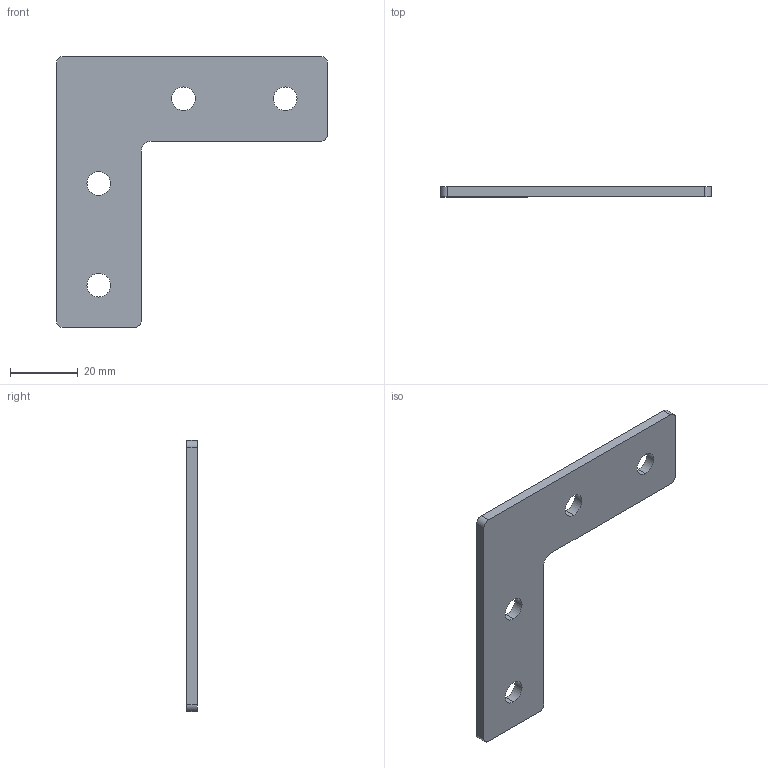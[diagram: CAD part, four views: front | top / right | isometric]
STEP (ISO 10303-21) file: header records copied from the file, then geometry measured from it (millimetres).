
FILE_DESCRIPTION (( 'STEP AP203' ), '1' );
FILE_NAME ('DSB8080-6.STEP', '2020-03-12T01:59:19', ( '' ), ( '' ), 'SwSTEP 2.0', 'SolidWorks 2017', '' );
FILE_SCHEMA (( 'CONFIG_CONTROL_DESIGN' ));
Length unit declared in the file: millimetre
Products named in the file (1): DSB8080-6
Bounding box: 80 x 3 x 80 mm (x, y, z)
Volume: 9656.1 mm3; surface area: 7644.6 mm2
Topology: 1 solids, 1 shells, 22 faces, 60 edges, 40 vertices
Faces by surface type: cylinder 14, plane 8
Entity records: 805 total; most frequent: DIRECTION 134, CARTESIAN_POINT 123, ORIENTED_EDGE 120, EDGE_CURVE 60, AXIS2_PLACEMENT_3D 51, VERTEX_POINT 40, VECTOR 32, LINE 32
